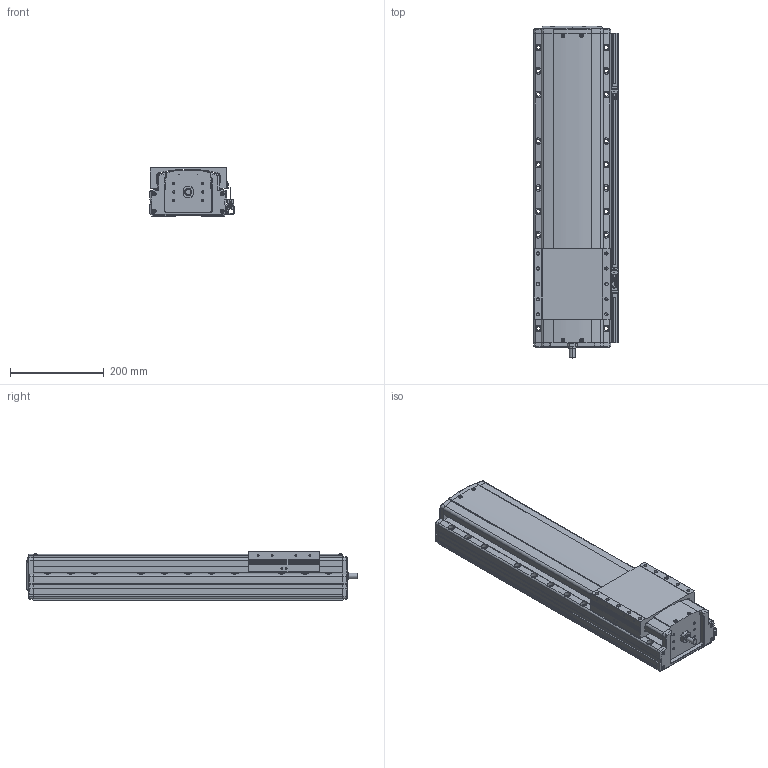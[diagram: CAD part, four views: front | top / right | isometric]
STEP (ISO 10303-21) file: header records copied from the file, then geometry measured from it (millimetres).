
FILE_DESCRIPTION(('STEP AP214'),'1');
FILE_NAME('Z:/Web/3D/PSA165/STP/PSA165-400 (3D)/PSA165ㅁㅁ-400+3SR.stp','2014-06-23T11:03:58',(' '),(' '),'Spatial InterOp 3D',' ',' ');
FILE_SCHEMA(('automotive_design'));
Length unit declared in the file: millimetre
Products named in the file (36): 스크루 : Round - M4.0 x 12.0; RRCV-PA160; BASE; 스크루 : Round - M4.0 x 10.0; RN15; Screw 20; SLIDE; FRCV; M3.0 x 6.0; SRL-16x17-360L; SGD-SAN150; EE-SX674; SBK-SX674-352; 스크루 : Round - M3.0 x 6.0; BHCS M4.0 x 10.0
Bounding box: 181 x 708.8 x 104 mm (x, y, z)
Volume: 9531375 mm3; surface area: 737079.7 mm2
Topology: 36 solids, 36 shells, 2392 faces, 6433 edges, 4141 vertices
Faces by surface type: plane 1399, cylinder 707, cone 193, sphere 52, bspline 25, torus 16
Entity records: 97302 total; most frequent: CARTESIAN_POINT 16920, DIRECTION 12733, ORIENTED_EDGE 12614, EDGE_CURVE 6307, LINE 4317, VECTOR 4317, AXIS2_PLACEMENT_3D 4208, VERTEX_POINT 4141
